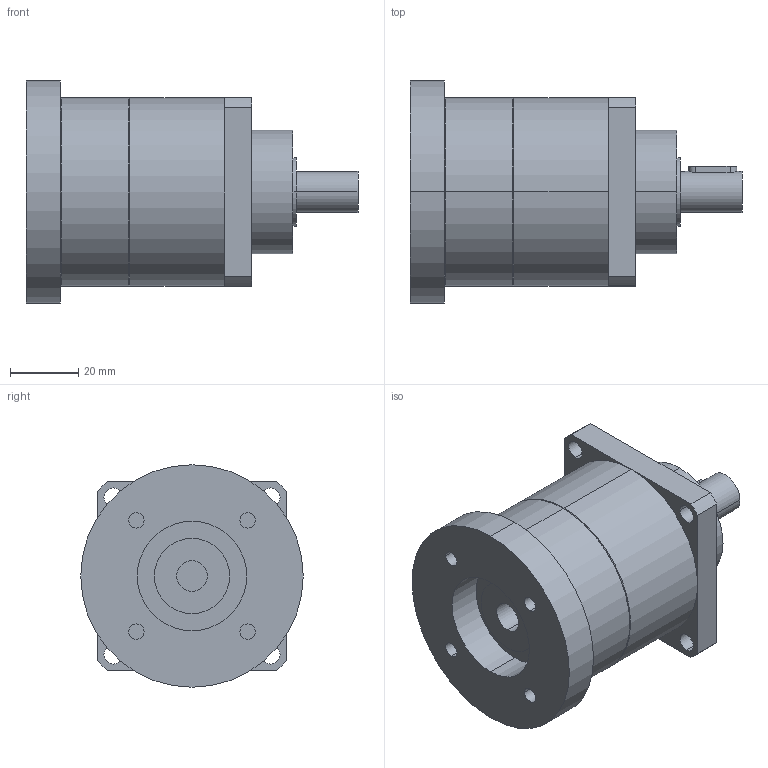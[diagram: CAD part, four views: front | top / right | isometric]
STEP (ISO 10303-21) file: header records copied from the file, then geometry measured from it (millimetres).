
FILE_DESCRIPTION(('CoCreate Modeling STEP Export'),'2;1');
FILE_NAME('GPT55_ig-3-4-5-7-10_12_B5A_9_P12.stp','2014-08-25T14:35:47',(''),(''),'CoCreate Modeling STEP processor for AP214 (Solid Model)','CoCreate Modeling 16.00C 25-Feb-2009 (C) Parametric Technology GmbH','');
FILE_SCHEMA(('AUTOMOTIVE_DESIGN { 1 0 10303 214 1 1 1 1 }'));
Length unit declared in the file: millimetre
Products named in the file (2): GPT55_ig-3-4-5-7-10_12_B5A_9_P12
Assembly tree (1 placements, depth 2):
  GPT55_ig-3-4-5-7-10_12_B5A_9_P12
    GPT55_ig-3-4-5-7-10_12_B5A_9_P12
Bounding box: 97 x 65 x 65 mm (x, y, z)
Volume: 176052.4 mm3; surface area: 25168 mm2
Topology: 1 solids, 1 shells, 72 faces, 180 edges, 123 vertices
Faces by surface type: cylinder 42, plane 26, cone 4
Entity records: 2237 total; most frequent: CARTESIAN_POINT 661, ORIENTED_EDGE 360, DIRECTION 268, EDGE_CURVE 180, VERTEX_POINT 123, AXIS2_PLACEMENT_3D 100, EDGE_LOOP 93, FACE_OUTER_BOUND 72
